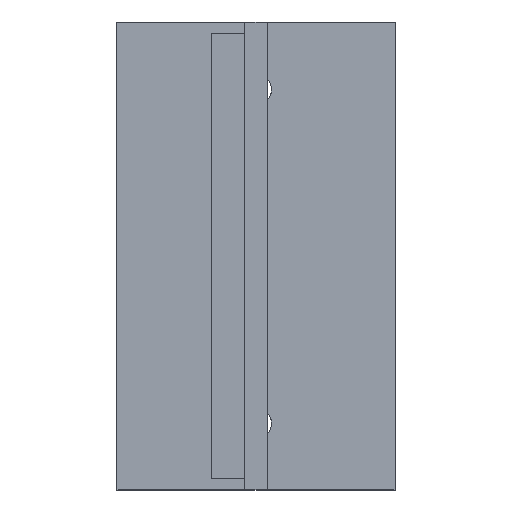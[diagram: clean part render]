
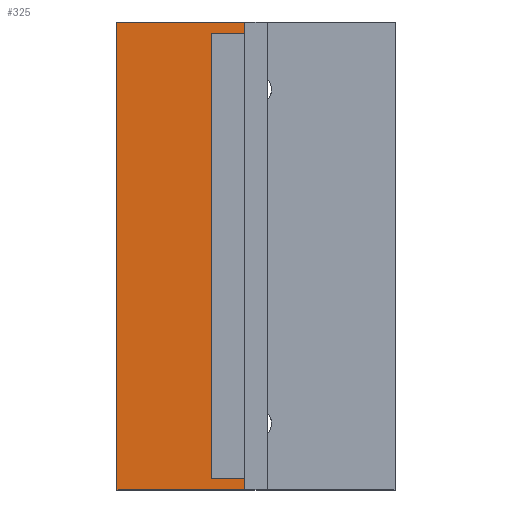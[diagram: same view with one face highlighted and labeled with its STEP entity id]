
A CAD part, top view. The second image highlights one B-rep face of the part: STEP entity #325.
In plain terms, the highlighted planar face has unit normal (0, 0, 1).
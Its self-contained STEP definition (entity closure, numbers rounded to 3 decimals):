
#24 = VERTEX_POINT('',#25);
#25 = CARTESIAN_POINT('',(-25.,-42.,6.));
#32 = PLANE('',#33);
#33 = AXIS2_PLACEMENT_3D('',#34,#35,#36);
#34 = CARTESIAN_POINT('',(-25.,-42.,0.));
#35 = DIRECTION('',(1.,0.,0.));
#36 = DIRECTION('',(0.,0.,1.));
#44 = PLANE('',#45);
#45 = AXIS2_PLACEMENT_3D('',#46,#47,#48);
#46 = CARTESIAN_POINT('',(-25.,-42.,0.));
#47 = DIRECTION('',(0.,1.,0.));
#48 = DIRECTION('',(0.,0.,1.));
#85 = VERTEX_POINT('',#86);
#86 = CARTESIAN_POINT('',(-25.,42.,6.));
#100 = PLANE('',#101);
#101 = AXIS2_PLACEMENT_3D('',#102,#103,#104);
#102 = CARTESIAN_POINT('',(-25.,42.,0.));
#103 = DIRECTION('',(0.,1.,0.));
#104 = DIRECTION('',(0.,0.,1.));
#112 = EDGE_CURVE('',#24,#85,#113,.T.);
#113 = SURFACE_CURVE('',#114,(#118,#125),.PCURVE_S1.);
#114 = LINE('',#115,#116);
#115 = CARTESIAN_POINT('',(-25.,-42.,6.));
#116 = VECTOR('',#117,1.);
#117 = DIRECTION('',(0.,1.,0.));
#118 = PCURVE('',#32,#119);
#119 = DEFINITIONAL_REPRESENTATION('',(#120),#124);
#120 = LINE('',#121,#122);
#121 = CARTESIAN_POINT('',(6.,0.));
#122 = VECTOR('',#123,1.);
#123 = DIRECTION('',(0.,-1.));
#124 = ( GEOMETRIC_REPRESENTATION_CONTEXT(2) 
PARAMETRIC_REPRESENTATION_CONTEXT() REPRESENTATION_CONTEXT('2D SPACE',''
  ) );
#125 = PCURVE('',#126,#131);
#126 = PLANE('',#127);
#127 = AXIS2_PLACEMENT_3D('',#128,#129,#130);
#128 = CARTESIAN_POINT('',(-25.,-42.,6.));
#129 = DIRECTION('',(0.,0.,1.));
#130 = DIRECTION('',(1.,0.,0.));
#131 = DEFINITIONAL_REPRESENTATION('',(#132),#136);
#132 = LINE('',#133,#134);
#133 = CARTESIAN_POINT('',(0.,0.));
#134 = VECTOR('',#135,1.);
#135 = DIRECTION('',(0.,1.));
#136 = ( GEOMETRIC_REPRESENTATION_CONTEXT(2) 
PARAMETRIC_REPRESENTATION_CONTEXT() REPRESENTATION_CONTEXT('2D SPACE',''
  ) );
#165 = EDGE_CURVE('',#24,#166,#168,.T.);
#166 = VERTEX_POINT('',#167);
#167 = CARTESIAN_POINT('',(-2.,-42.,6.));
#168 = SURFACE_CURVE('',#169,(#173,#180),.PCURVE_S1.);
#169 = LINE('',#170,#171);
#170 = CARTESIAN_POINT('',(-25.,-42.,6.));
#171 = VECTOR('',#172,1.);
#172 = DIRECTION('',(1.,0.,0.));
#173 = PCURVE('',#44,#174);
#174 = DEFINITIONAL_REPRESENTATION('',(#175),#179);
#175 = LINE('',#176,#177);
#176 = CARTESIAN_POINT('',(6.,0.));
#177 = VECTOR('',#178,1.);
#178 = DIRECTION('',(0.,1.));
#179 = ( GEOMETRIC_REPRESENTATION_CONTEXT(2) 
PARAMETRIC_REPRESENTATION_CONTEXT() REPRESENTATION_CONTEXT('2D SPACE',''
  ) );
#180 = PCURVE('',#126,#181);
#181 = DEFINITIONAL_REPRESENTATION('',(#182),#186);
#182 = LINE('',#183,#184);
#183 = CARTESIAN_POINT('',(0.,0.));
#184 = VECTOR('',#185,1.);
#185 = DIRECTION('',(1.,0.));
#186 = ( GEOMETRIC_REPRESENTATION_CONTEXT(2) 
PARAMETRIC_REPRESENTATION_CONTEXT() REPRESENTATION_CONTEXT('2D SPACE',''
  ) );
#204 = PLANE('',#205);
#205 = AXIS2_PLACEMENT_3D('',#206,#207,#208);
#206 = CARTESIAN_POINT('',(-2.,-42.,6.));
#207 = DIRECTION('',(1.,0.,0.));
#208 = DIRECTION('',(0.,0.,1.));
#325 = ADVANCED_FACE('',(#326),#126,.T.);
#326 = FACE_BOUND('',#327,.T.);
#327 = EDGE_LOOP('',(#328,#351,#352,#353,#376,#409,#432,#465));
#328 = ORIENTED_EDGE('',*,*,#329,.F.);
#329 = EDGE_CURVE('',#85,#330,#332,.T.);
#330 = VERTEX_POINT('',#331);
#331 = CARTESIAN_POINT('',(-2.,42.,6.));
#332 = SURFACE_CURVE('',#333,(#337,#344),.PCURVE_S1.);
#333 = LINE('',#334,#335);
#334 = CARTESIAN_POINT('',(-25.,42.,6.));
#335 = VECTOR('',#336,1.);
#336 = DIRECTION('',(1.,0.,0.));
#337 = PCURVE('',#126,#338);
#338 = DEFINITIONAL_REPRESENTATION('',(#339),#343);
#339 = LINE('',#340,#341);
#340 = CARTESIAN_POINT('',(0.,84.));
#341 = VECTOR('',#342,1.);
#342 = DIRECTION('',(1.,0.));
#343 = ( GEOMETRIC_REPRESENTATION_CONTEXT(2) 
PARAMETRIC_REPRESENTATION_CONTEXT() REPRESENTATION_CONTEXT('2D SPACE',''
  ) );
#344 = PCURVE('',#100,#345);
#345 = DEFINITIONAL_REPRESENTATION('',(#346),#350);
#346 = LINE('',#347,#348);
#347 = CARTESIAN_POINT('',(6.,0.));
#348 = VECTOR('',#349,1.);
#349 = DIRECTION('',(0.,1.));
#350 = ( GEOMETRIC_REPRESENTATION_CONTEXT(2) 
PARAMETRIC_REPRESENTATION_CONTEXT() REPRESENTATION_CONTEXT('2D SPACE',''
  ) );
#351 = ORIENTED_EDGE('',*,*,#112,.F.);
#352 = ORIENTED_EDGE('',*,*,#165,.T.);
#353 = ORIENTED_EDGE('',*,*,#354,.T.);
#354 = EDGE_CURVE('',#166,#355,#357,.T.);
#355 = VERTEX_POINT('',#356);
#356 = CARTESIAN_POINT('',(-2.,-31.96,6.));
#357 = SURFACE_CURVE('',#358,(#362,#369),.PCURVE_S1.);
#358 = LINE('',#359,#360);
#359 = CARTESIAN_POINT('',(-2.,-42.,6.));
#360 = VECTOR('',#361,1.);
#361 = DIRECTION('',(0.,1.,0.));
#362 = PCURVE('',#126,#363);
#363 = DEFINITIONAL_REPRESENTATION('',(#364),#368);
#364 = LINE('',#365,#366);
#365 = CARTESIAN_POINT('',(23.,0.));
#366 = VECTOR('',#367,1.);
#367 = DIRECTION('',(0.,1.));
#368 = ( GEOMETRIC_REPRESENTATION_CONTEXT(2) 
PARAMETRIC_REPRESENTATION_CONTEXT() REPRESENTATION_CONTEXT('2D SPACE',''
  ) );
#369 = PCURVE('',#204,#370);
#370 = DEFINITIONAL_REPRESENTATION('',(#371),#375);
#371 = LINE('',#372,#373);
#372 = CARTESIAN_POINT('',(0.,0.));
#373 = VECTOR('',#374,1.);
#374 = DIRECTION('',(0.,-1.));
#375 = ( GEOMETRIC_REPRESENTATION_CONTEXT(2) 
PARAMETRIC_REPRESENTATION_CONTEXT() REPRESENTATION_CONTEXT('2D SPACE',''
  ) );
#376 = ORIENTED_EDGE('',*,*,#377,.T.);
#377 = EDGE_CURVE('',#355,#378,#380,.T.);
#378 = VERTEX_POINT('',#379);
#379 = CARTESIAN_POINT('',(-2.,-28.04,6.));
#380 = SURFACE_CURVE('',#381,(#386,#397),.PCURVE_S1.);
#381 = CIRCLE('',#382,2.8);
#382 = AXIS2_PLACEMENT_3D('',#383,#384,#385);
#383 = CARTESIAN_POINT('',(0.,-30.,6.));
#384 = DIRECTION('',(0.,0.,-1.));
#385 = DIRECTION('',(1.,0.,0.));
#386 = PCURVE('',#126,#387);
#387 = DEFINITIONAL_REPRESENTATION('',(#388),#396);
#388 = ( BOUNDED_CURVE() B_SPLINE_CURVE(2,(#389,#390,#391,#392,#393,#394
,#395),.UNSPECIFIED.,.T.,.F.) B_SPLINE_CURVE_WITH_KNOTS((1,2,2,2,2,1),(
    -2.094,0.,2.094,4.189,6.283,
8.378),.UNSPECIFIED.) CURVE() GEOMETRIC_REPRESENTATION_ITEM() 
RATIONAL_B_SPLINE_CURVE((1.,0.5,1.,0.5,1.,0.5,1.)) REPRESENTATION_ITEM(
  '') );
#389 = CARTESIAN_POINT('',(27.8,12.));
#390 = CARTESIAN_POINT('',(27.8,7.15));
#391 = CARTESIAN_POINT('',(23.6,9.575));
#392 = CARTESIAN_POINT('',(19.4,12.));
#393 = CARTESIAN_POINT('',(23.6,14.425));
#394 = CARTESIAN_POINT('',(27.8,16.85));
#395 = CARTESIAN_POINT('',(27.8,12.));
#396 = ( GEOMETRIC_REPRESENTATION_CONTEXT(2) 
PARAMETRIC_REPRESENTATION_CONTEXT() REPRESENTATION_CONTEXT('2D SPACE',''
  ) );
#397 = PCURVE('',#398,#403);
#398 = CYLINDRICAL_SURFACE('',#399,2.8);
#399 = AXIS2_PLACEMENT_3D('',#400,#401,#402);
#400 = CARTESIAN_POINT('',(0.,-30.,-1.));
#401 = DIRECTION('',(-0.,-0.,-1.));
#402 = DIRECTION('',(1.,0.,0.));
#403 = DEFINITIONAL_REPRESENTATION('',(#404),#408);
#404 = LINE('',#405,#406);
#405 = CARTESIAN_POINT('',(-6.283,-7.));
#406 = VECTOR('',#407,1.);
#407 = DIRECTION('',(1.,-0.));
#408 = ( GEOMETRIC_REPRESENTATION_CONTEXT(2) 
PARAMETRIC_REPRESENTATION_CONTEXT() REPRESENTATION_CONTEXT('2D SPACE',''
  ) );
#409 = ORIENTED_EDGE('',*,*,#410,.T.);
#410 = EDGE_CURVE('',#378,#411,#413,.T.);
#411 = VERTEX_POINT('',#412);
#412 = CARTESIAN_POINT('',(-2.,28.04,6.));
#413 = SURFACE_CURVE('',#414,(#418,#425),.PCURVE_S1.);
#414 = LINE('',#415,#416);
#415 = CARTESIAN_POINT('',(-2.,-42.,6.));
#416 = VECTOR('',#417,1.);
#417 = DIRECTION('',(0.,1.,0.));
#418 = PCURVE('',#126,#419);
#419 = DEFINITIONAL_REPRESENTATION('',(#420),#424);
#420 = LINE('',#421,#422);
#421 = CARTESIAN_POINT('',(23.,0.));
#422 = VECTOR('',#423,1.);
#423 = DIRECTION('',(0.,1.));
#424 = ( GEOMETRIC_REPRESENTATION_CONTEXT(2) 
PARAMETRIC_REPRESENTATION_CONTEXT() REPRESENTATION_CONTEXT('2D SPACE',''
  ) );
#425 = PCURVE('',#204,#426);
#426 = DEFINITIONAL_REPRESENTATION('',(#427),#431);
#427 = LINE('',#428,#429);
#428 = CARTESIAN_POINT('',(0.,0.));
#429 = VECTOR('',#430,1.);
#430 = DIRECTION('',(0.,-1.));
#431 = ( GEOMETRIC_REPRESENTATION_CONTEXT(2) 
PARAMETRIC_REPRESENTATION_CONTEXT() REPRESENTATION_CONTEXT('2D SPACE',''
  ) );
#432 = ORIENTED_EDGE('',*,*,#433,.T.);
#433 = EDGE_CURVE('',#411,#434,#436,.T.);
#434 = VERTEX_POINT('',#435);
#435 = CARTESIAN_POINT('',(-2.,31.96,6.));
#436 = SURFACE_CURVE('',#437,(#442,#453),.PCURVE_S1.);
#437 = CIRCLE('',#438,2.8);
#438 = AXIS2_PLACEMENT_3D('',#439,#440,#441);
#439 = CARTESIAN_POINT('',(0.,30.,6.));
#440 = DIRECTION('',(0.,0.,-1.));
#441 = DIRECTION('',(1.,0.,0.));
#442 = PCURVE('',#126,#443);
#443 = DEFINITIONAL_REPRESENTATION('',(#444),#452);
#444 = ( BOUNDED_CURVE() B_SPLINE_CURVE(2,(#445,#446,#447,#448,#449,#450
,#451),.UNSPECIFIED.,.T.,.F.) B_SPLINE_CURVE_WITH_KNOTS((1,2,2,2,2,1),(
    -2.094,0.,2.094,4.189,6.283,
8.378),.UNSPECIFIED.) CURVE() GEOMETRIC_REPRESENTATION_ITEM() 
RATIONAL_B_SPLINE_CURVE((1.,0.5,1.,0.5,1.,0.5,1.)) REPRESENTATION_ITEM(
  '') );
#445 = CARTESIAN_POINT('',(27.8,72.));
#446 = CARTESIAN_POINT('',(27.8,67.15));
#447 = CARTESIAN_POINT('',(23.6,69.575));
#448 = CARTESIAN_POINT('',(19.4,72.));
#449 = CARTESIAN_POINT('',(23.6,74.425));
#450 = CARTESIAN_POINT('',(27.8,76.85));
#451 = CARTESIAN_POINT('',(27.8,72.));
#452 = ( GEOMETRIC_REPRESENTATION_CONTEXT(2) 
PARAMETRIC_REPRESENTATION_CONTEXT() REPRESENTATION_CONTEXT('2D SPACE',''
  ) );
#453 = PCURVE('',#454,#459);
#454 = CYLINDRICAL_SURFACE('',#455,2.8);
#455 = AXIS2_PLACEMENT_3D('',#456,#457,#458);
#456 = CARTESIAN_POINT('',(0.,30.,-1.));
#457 = DIRECTION('',(-0.,-0.,-1.));
#458 = DIRECTION('',(1.,0.,0.));
#459 = DEFINITIONAL_REPRESENTATION('',(#460),#464);
#460 = LINE('',#461,#462);
#461 = CARTESIAN_POINT('',(-6.283,-7.));
#462 = VECTOR('',#463,1.);
#463 = DIRECTION('',(1.,-0.));
#464 = ( GEOMETRIC_REPRESENTATION_CONTEXT(2) 
PARAMETRIC_REPRESENTATION_CONTEXT() REPRESENTATION_CONTEXT('2D SPACE',''
  ) );
#465 = ORIENTED_EDGE('',*,*,#466,.T.);
#466 = EDGE_CURVE('',#434,#330,#467,.T.);
#467 = SURFACE_CURVE('',#468,(#472,#479),.PCURVE_S1.);
#468 = LINE('',#469,#470);
#469 = CARTESIAN_POINT('',(-2.,-42.,6.));
#470 = VECTOR('',#471,1.);
#471 = DIRECTION('',(0.,1.,0.));
#472 = PCURVE('',#126,#473);
#473 = DEFINITIONAL_REPRESENTATION('',(#474),#478);
#474 = LINE('',#475,#476);
#475 = CARTESIAN_POINT('',(23.,0.));
#476 = VECTOR('',#477,1.);
#477 = DIRECTION('',(0.,1.));
#478 = ( GEOMETRIC_REPRESENTATION_CONTEXT(2) 
PARAMETRIC_REPRESENTATION_CONTEXT() REPRESENTATION_CONTEXT('2D SPACE',''
  ) );
#479 = PCURVE('',#204,#480);
#480 = DEFINITIONAL_REPRESENTATION('',(#481),#485);
#481 = LINE('',#482,#483);
#482 = CARTESIAN_POINT('',(0.,0.));
#483 = VECTOR('',#484,1.);
#484 = DIRECTION('',(0.,-1.));
#485 = ( GEOMETRIC_REPRESENTATION_CONTEXT(2) 
PARAMETRIC_REPRESENTATION_CONTEXT() REPRESENTATION_CONTEXT('2D SPACE',''
  ) );
